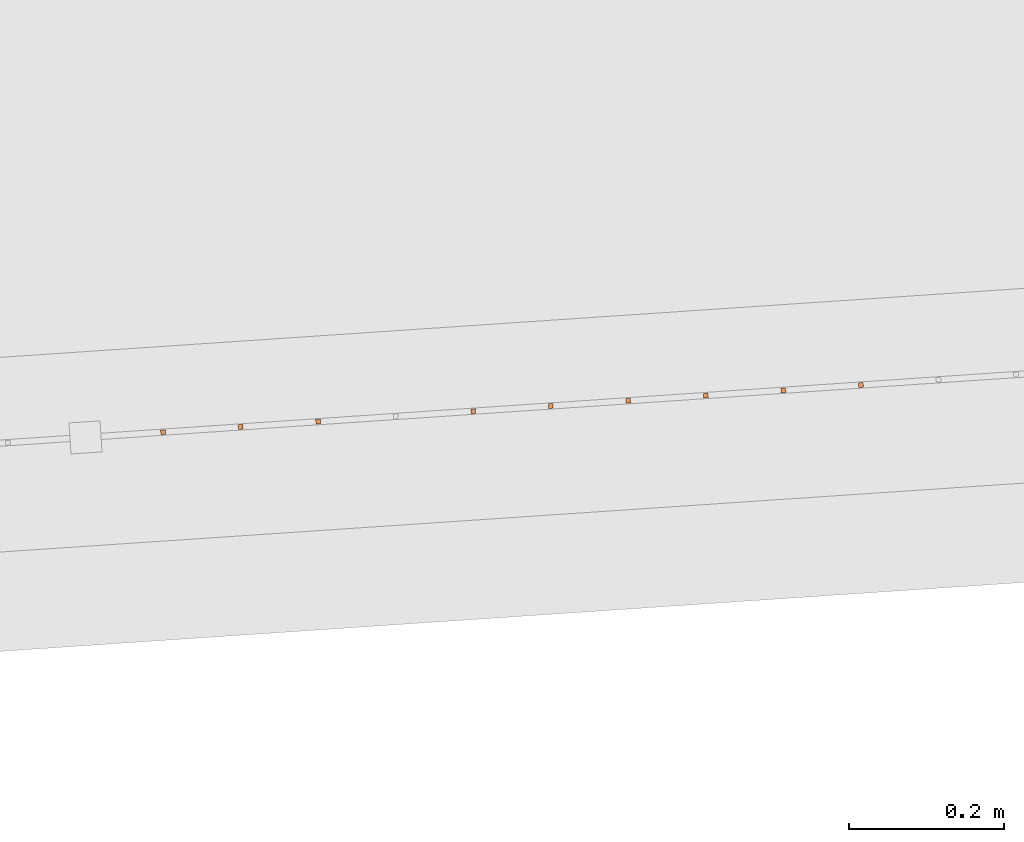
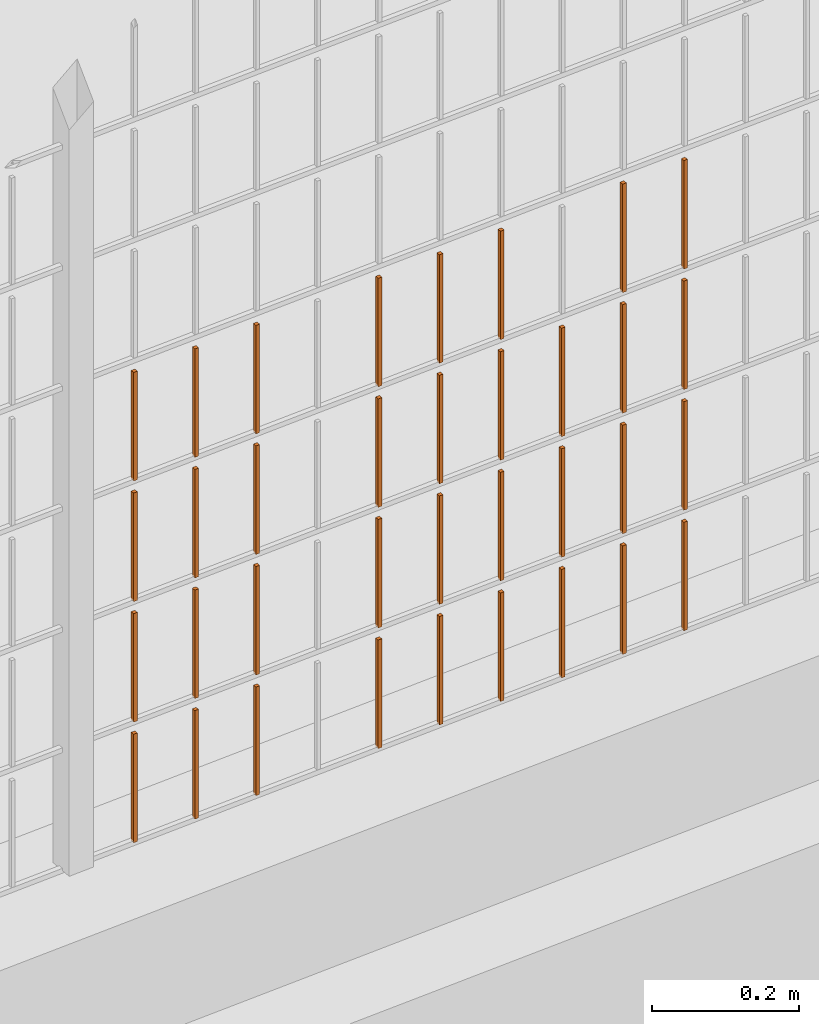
# One storey, part 210 of 1809: 35 proxies, 1 element without a shape of its own.
"""IFC2X3 building model written with IfcOpenShell, lengths in millimetres."""

from ifc_helpers import new_model, entity, si_unit, converted_unit, derived_unit, money_unit, direction, frame, origin_with_axes, place, context, subcontext, project, spatial, faceted_brep, source, transform, mapped, material, type_object, element, aggregate, save


model = new_model("IFC2X3")

# Units and contexts
model_context = context("Model", 3, precision=0.01, world=origin_with_axes(), true_north=direction((0.0, 1.0)))
body_context = subcontext(model_context, "Body", "Model", "MODEL_VIEW")
ifc_project = project(units=[si_unit("LENGTHUNIT", "METRE", prefix="MILLI"), si_unit("AREAUNIT", "SQUARE_METRE"), si_unit("VOLUMEUNIT", "CUBIC_METRE"), converted_unit("PLANEANGLEUNIT", "DEGREE", entity("IfcPlaneAngleMeasure", 0.0174532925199), si_unit("PLANEANGLEUNIT", "RADIAN"), dimensions=[0, 0, 0, 0, 0, 0, 0]), si_unit("SOLIDANGLEUNIT", "STERADIAN"), money_unit("EUR"), converted_unit("TIMEUNIT", "Year", entity("IfcTimeMeasure", 31556926.0), si_unit("TIMEUNIT", "SECOND"), dimensions=[0, 0, 1, 0, 0, 0, 0]), si_unit("MASSUNIT", "GRAM", prefix="KILO"), si_unit("THERMODYNAMICTEMPERATUREUNIT", "DEGREE_CELSIUS"), si_unit("LUMINOUSINTENSITYUNIT", "LUMEN"), si_unit("ENERGYUNIT", "JOULE", prefix="MEGA"), derived_unit("THERMALCONDUCTANCEUNIT", [(si_unit("POWERUNIT", "WATT"), 1), (si_unit("LENGTHUNIT", "METRE"), -1), (si_unit("THERMODYNAMICTEMPERATUREUNIT", "KELVIN"), -1)]), derived_unit("SPECIFICHEATCAPACITYUNIT", [(si_unit("ENERGYUNIT", "JOULE"), 1), (si_unit("MASSUNIT", "GRAM", prefix="KILO"), -1), (si_unit("THERMODYNAMICTEMPERATUREUNIT", "KELVIN"), -1)]), derived_unit("MASSDENSITYUNIT", [(si_unit("MASSUNIT", "GRAM", prefix="KILO"), 1), (si_unit("VOLUMEUNIT", "CUBIC_METRE"), -1)])], contexts=[model_context])

# Site, building, storey
site_placement = place(None, origin_with_axes())
site = spatial("IfcSite", under=ifc_project, at=site_placement, Name="Politse- ja Piirivalveameti ning Päästeameti ühishoone", CompositionType="ELEMENT")
building_placement = place(site_placement, origin_with_axes())
building = spatial("IfcBuilding", under=site, at=building_placement, Name="Politse- ja Piirivalveameti ning Päästeameti ühishoone", CompositionType="ELEMENT")
storey_placement = place(building_placement, origin_with_axes())
storey = spatial("IfcBuildingStorey", under=building, at=storey_placement, Name="Esimene korrus", CompositionType="ELEMENT", Elevation=0.0)

# Proxies
building_element_proxy_type_1 = type_object("IfcBuildingElementProxyType", Name="Railing Type", PredefinedType="NOTDEFINED")
proxy_1_placement = place(storey_placement, frame((89252.001212, -29183.4766571, 203.661247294), z_axis=(0.0, 0.0, 1.0), x_axis=(1.0, 0.0, 0.0)))
proxy_1 = element("IfcBuildingElementProxy", 1, at=proxy_1_placement, inside=storey, type_object=building_element_proxy_type_1, Name="PIIRDEAED")
ifc_material = material(Name="ET-03_Raud")
building_element_proxy_type_2 = type_object("IfcBuildingElementProxyType", Name="IfcBuildingElementProxy", PredefinedType="NOTDEFINED")
shared_shape_1 = source(origin_with_axes(), body_context, "Body", "Brep", [
    faceted_brep([(3.0, 3.0, -0.000752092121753), (-3.0, 3.0, -0.000752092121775), (-3.0, 3.0, 179.99926046), (3.0, 3.0, 179.99926046), (3.0, -3.0, 0.000752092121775), (-3.0, -3.0, 0.000752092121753), (-3.0, -3.0, 180.000764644), (3.0, -3.0, 180.000764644)], [[[0, 1, 2, 3]], [[0, 4, 5, 1]], [[1, 5, 6, 2]], [[3, 2, 6, 7]], [[4, 0, 3, 7]], [[5, 4, 7, 6]]]),
])
proxy_2_placement = place(proxy_1_placement, frame((-61287.0362515, -21437.4827715, 411.834876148), z_axis=(0.0, 0.0, 1.0), x_axis=(1.0, 0.0, 0.0)))
proxy_2 = element("IfcBuildingElementProxy", 2, at=proxy_2_placement, type_object=building_element_proxy_type_2, material=ifc_material, Name="BALUSTER - 001", context=body_context, shape_type="MappedRepresentation", body=[
    mapped(shared_shape_1, transform((0.0, 0.0, 0.0), x_axis=(-0.0673926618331, 0.997726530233, 0.0), y_axis=(-0.997726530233, -0.0673926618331, 0.0), z_axis=(0.0, 0.0, 1.0))),
])
shared_shape_2 = source(origin_with_axes(), body_context, "Body", "Brep", [
    faceted_brep([(3.0, 3.0, -0.000752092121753), (-3.0, 3.0, -0.000752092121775), (-3.0, 3.0, 179.99926046), (3.0, 3.0, 179.99926046), (3.0, -3.0, 0.000752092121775), (-3.0, -3.0, 0.000752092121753), (-3.0, -3.0, 180.000764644), (3.0, -3.0, 180.000764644)], [[[0, 1, 2, 3]], [[0, 4, 5, 1]], [[1, 5, 6, 2]], [[3, 2, 6, 7]], [[4, 0, 3, 7]], [[5, 4, 7, 6]]]),
])
proxy_3_placement = place(proxy_1_placement, frame((-61287.0362515, -21437.4827715, 611.834876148), z_axis=(0.0, 0.0, 1.0), x_axis=(1.0, 0.0, 0.0)))
proxy_3 = element("IfcBuildingElementProxy", 3, at=proxy_3_placement, type_object=building_element_proxy_type_2, material=ifc_material, Name="BALUSTER - 001", context=body_context, shape_type="MappedRepresentation", body=[
    mapped(shared_shape_2, transform((0.0, 0.0, 0.0), x_axis=(-0.0673926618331, 0.997726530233, 0.0), y_axis=(-0.997726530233, -0.0673926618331, 0.0), z_axis=(0.0, 0.0, 1.0))),
])
shared_shape_3 = source(origin_with_axes(), body_context, "Body", "Brep", [
    faceted_brep([(3.0, 3.0, -0.000752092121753), (-3.0, 3.0, -0.000752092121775), (-3.0, 3.0, 179.99926046), (3.0, 3.0, 179.99926046), (3.0, -3.0, 0.000752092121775), (-3.0, -3.0, 0.000752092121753), (-3.0, -3.0, 180.000764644), (3.0, -3.0, 180.000764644)], [[[0, 1, 2, 3]], [[0, 4, 5, 1]], [[1, 5, 6, 2]], [[3, 2, 6, 7]], [[4, 0, 3, 7]], [[5, 4, 7, 6]]]),
])
proxy_4_placement = place(proxy_1_placement, frame((-61287.0362515, -21437.4827715, 211.834876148), z_axis=(0.0, 0.0, 1.0), x_axis=(1.0, 0.0, 0.0)))
proxy_4 = element("IfcBuildingElementProxy", 4, at=proxy_4_placement, type_object=building_element_proxy_type_2, material=ifc_material, Name="BALUSTER - 001", context=body_context, shape_type="MappedRepresentation", body=[
    mapped(shared_shape_3, transform((0.0, 0.0, 0.0), x_axis=(-0.0673926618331, 0.997726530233, 0.0), y_axis=(-0.997726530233, -0.0673926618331, 0.0), z_axis=(0.0, 0.0, 1.0))),
])
shared_shape_4 = source(origin_with_axes(), body_context, "Body", "Brep", [
    faceted_brep([(3.0, 3.0, -0.000752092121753), (-3.0, 3.0, -0.000752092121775), (-3.0, 3.0, 179.99926046), (3.0, 3.0, 179.99926046), (3.0, -3.0, 0.000752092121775), (-3.0, -3.0, 0.000752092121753), (-3.0, -3.0, 180.000764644), (3.0, -3.0, 180.000764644)], [[[0, 1, 2, 3]], [[0, 4, 5, 1]], [[1, 5, 6, 2]], [[3, 2, 6, 7]], [[4, 0, 3, 7]], [[5, 4, 7, 6]]]),
])
proxy_5_placement = place(proxy_1_placement, frame((-61287.0362515, -21437.4827715, 11.8348761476), z_axis=(0.0, 0.0, 1.0), x_axis=(1.0, 0.0, 0.0)))
proxy_5 = element("IfcBuildingElementProxy", 5, at=proxy_5_placement, type_object=building_element_proxy_type_2, material=ifc_material, Name="BALUSTER - 001", context=body_context, shape_type="MappedRepresentation", body=[
    mapped(shared_shape_4, transform((0.0, 0.0, 0.0), x_axis=(-0.0673926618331, 0.997726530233, 0.0), y_axis=(-0.997726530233, -0.0673926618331, 0.0), z_axis=(0.0, 0.0, 1.0))),
])
shared_shape_5 = source(origin_with_axes(), body_context, "Body", "Brep", [
    faceted_brep([(3.0, 3.0, -0.000752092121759), (-3.0, 3.0, -0.000752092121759), (-3.0, 3.0, 179.99926046), (3.0, 3.0, 179.99926046), (3.0, -3.0, 0.000752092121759), (-3.0, -3.0, 0.000752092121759), (-3.0, -3.0, 180.000764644), (3.0, -3.0, 180.000764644)], [[[0, 1, 2, 3]], [[0, 4, 5, 1]], [[1, 5, 6, 2]], [[3, 2, 6, 7]], [[4, 0, 3, 7]], [[5, 4, 7, 6]]]),
])
proxy_6_placement = place(proxy_1_placement, frame((-62085.2174757, -21491.3969009, 11.6343182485), z_axis=(0.0, 0.0, 1.0), x_axis=(1.0, 0.0, 0.0)))
proxy_6 = element("IfcBuildingElementProxy", 6, at=proxy_6_placement, type_object=building_element_proxy_type_2, material=ifc_material, Name="BALUSTER - 001", context=body_context, shape_type="MappedRepresentation", body=[
    mapped(shared_shape_5, transform((0.0, 0.0, 0.0), x_axis=(-0.0673926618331, 0.997726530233, 0.0), y_axis=(-0.997726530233, -0.0673926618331, 0.0), z_axis=(0.0, 0.0, 1.0))),
])
shared_shape_6 = source(origin_with_axes(), body_context, "Body", "Brep", [
    faceted_brep([(3.0, 3.0, -0.000752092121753), (-3.0, 3.0, -0.000752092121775), (-3.0, 3.0, 179.99926046), (3.0, 3.0, 179.99926046), (3.0, -3.0, 0.000752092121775), (-3.0, -3.0, 0.000752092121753), (-3.0, -3.0, 180.000764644), (3.0, -3.0, 180.000764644)], [[[0, 1, 2, 3]], [[0, 4, 5, 1]], [[1, 5, 6, 2]], [[3, 2, 6, 7]], [[4, 0, 3, 7]], [[5, 4, 7, 6]]]),
])
proxy_7_placement = place(proxy_1_placement, frame((-61187.2635985, -21430.7435053, 411.859945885), z_axis=(0.0, 0.0, 1.0), x_axis=(1.0, 0.0, 0.0)))
proxy_7 = element("IfcBuildingElementProxy", 7, at=proxy_7_placement, type_object=building_element_proxy_type_2, material=ifc_material, Name="BALUSTER - 001", context=body_context, shape_type="MappedRepresentation", body=[
    mapped(shared_shape_6, transform((0.0, 0.0, 0.0), x_axis=(-0.0673926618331, 0.997726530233, 0.0), y_axis=(-0.997726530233, -0.0673926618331, 0.0), z_axis=(0.0, 0.0, 1.0))),
])
shared_shape_7 = source(origin_with_axes(), body_context, "Body", "Brep", [
    faceted_brep([(3.0, 3.0, -0.000752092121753), (-3.0, 3.0, -0.000752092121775), (-3.0, 3.0, 179.99926046), (3.0, 3.0, 179.99926046), (3.0, -3.0, 0.000752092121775), (-3.0, -3.0, 0.000752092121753), (-3.0, -3.0, 180.000764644), (3.0, -3.0, 180.000764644)], [[[0, 1, 2, 3]], [[0, 4, 5, 1]], [[1, 5, 6, 2]], [[3, 2, 6, 7]], [[4, 0, 3, 7]], [[5, 4, 7, 6]]]),
])
proxy_8_placement = place(proxy_1_placement, frame((-61885.6721696, -21477.9183686, 211.684457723), z_axis=(0.0, 0.0, 1.0), x_axis=(1.0, 0.0, 0.0)))
proxy_8 = element("IfcBuildingElementProxy", 8, at=proxy_8_placement, type_object=building_element_proxy_type_2, material=ifc_material, Name="BALUSTER - 001", context=body_context, shape_type="MappedRepresentation", body=[
    mapped(shared_shape_7, transform((0.0, 0.0, 0.0), x_axis=(-0.0673926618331, 0.997726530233, 0.0), y_axis=(-0.997726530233, -0.0673926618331, 0.0), z_axis=(0.0, 0.0, 1.0))),
])
proxy_9_placement = place(proxy_1_placement, frame((-61885.6721696, -21477.9183686, 411.684457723), z_axis=(0.0, 0.0, 1.0), x_axis=(1.0, 0.0, 0.0)))
proxy_9 = element("IfcBuildingElementProxy", 9, at=proxy_9_placement, type_object=building_element_proxy_type_2, material=ifc_material, Name="BALUSTER - 001", context=body_context, shape_type="MappedRepresentation", body=[
    mapped(shared_shape_7, transform((0.0, 0.0, 0.0), x_axis=(-0.0673926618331, 0.997726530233, 0.0), y_axis=(-0.997726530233, -0.0673926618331, 0.0), z_axis=(0.0, 0.0, 1.0))),
])
shared_shape_8 = source(origin_with_axes(), body_context, "Body", "Brep", [
    faceted_brep([(3.0, 3.0, -0.000752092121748), (-3.0, 3.0, -0.00075209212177), (-3.0, 3.0, 179.99926046), (3.0, 3.0, 179.99926046), (3.0, -3.0, 0.00075209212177), (-3.0, -3.0, 0.000752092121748), (-3.0, -3.0, 180.000764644), (3.0, -3.0, 180.000764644)], [[[0, 1, 2, 3]], [[0, 4, 5, 1]], [[1, 5, 6, 2]], [[3, 2, 6, 7]], [[4, 0, 3, 7]], [[5, 4, 7, 6]]]),
])
proxy_10_placement = place(proxy_1_placement, frame((-61686.1268636, -21464.4398362, 611.734597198), z_axis=(0.0, 0.0, 1.0), x_axis=(1.0, 0.0, 0.0)))
proxy_10 = element("IfcBuildingElementProxy", 10, at=proxy_10_placement, type_object=building_element_proxy_type_2, material=ifc_material, Name="BALUSTER - 001", context=body_context, shape_type="MappedRepresentation", body=[
    mapped(shared_shape_8, transform((0.0, 0.0, 0.0), x_axis=(-0.0673926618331, 0.997726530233, 0.0), y_axis=(-0.997726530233, -0.0673926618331, 0.0), z_axis=(0.0, 0.0, 1.0))),
])
shared_shape_9 = source(origin_with_axes(), body_context, "Body", "Brep", [
    faceted_brep([(3.0, 3.0, -0.000752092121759), (-3.0, 3.0, -0.000752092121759), (-3.0, 3.0, 179.99926046), (3.0, 3.0, 179.99926046), (3.0, -3.0, 0.000752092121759), (-3.0, -3.0, 0.000752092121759), (-3.0, -3.0, 180.000764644), (3.0, -3.0, 180.000764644)], [[[0, 1, 2, 3]], [[0, 4, 5, 1]], [[1, 5, 6, 2]], [[3, 2, 6, 7]], [[4, 0, 3, 7]], [[5, 4, 7, 6]]]),
])
proxy_11_placement = place(proxy_1_placement, frame((-62085.2174757, -21491.3969009, 211.634318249), z_axis=(0.0, 0.0, 1.0), x_axis=(1.0, 0.0, 0.0)))
proxy_11 = element("IfcBuildingElementProxy", 11, at=proxy_11_placement, type_object=building_element_proxy_type_2, material=ifc_material, Name="BALUSTER - 001", context=body_context, shape_type="MappedRepresentation", body=[
    mapped(shared_shape_9, transform((0.0, 0.0, 0.0), x_axis=(-0.0673926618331, 0.997726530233, 0.0), y_axis=(-0.997726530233, -0.0673926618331, 0.0), z_axis=(0.0, 0.0, 1.0))),
])
proxy_12_placement = place(proxy_1_placement, frame((-62085.2174757, -21491.3969009, 411.634318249), z_axis=(0.0, 0.0, 1.0), x_axis=(1.0, 0.0, 0.0)))
proxy_12 = element("IfcBuildingElementProxy", 12, at=proxy_12_placement, type_object=building_element_proxy_type_2, material=ifc_material, Name="BALUSTER - 001", context=body_context, shape_type="MappedRepresentation", body=[
    mapped(shared_shape_9, transform((0.0, 0.0, 0.0), x_axis=(-0.0673926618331, 0.997726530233, 0.0), y_axis=(-0.997726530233, -0.0673926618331, 0.0), z_axis=(0.0, 0.0, 1.0))),
])
shared_shape_10 = source(origin_with_axes(), body_context, "Body", "Brep", [
    faceted_brep([(3.0, 3.0, -0.000752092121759), (-3.0, 3.0, -0.000752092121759), (-3.0, 3.0, 179.99926046), (3.0, 3.0, 179.99926046), (3.0, -3.0, 0.000752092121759), (-3.0, -3.0, 0.000752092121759), (-3.0, -3.0, 180.000764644), (3.0, -3.0, 180.000764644)], [[[0, 1, 2, 3]], [[0, 4, 5, 1]], [[1, 5, 6, 2]], [[3, 2, 6, 7]], [[4, 0, 3, 7]], [[5, 4, 7, 6]]]),
])
proxy_13_placement = place(proxy_1_placement, frame((-61586.3542106, -21457.70057, 411.759666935), z_axis=(0.0, 0.0, 1.0), x_axis=(1.0, 0.0, 0.0)))
proxy_13 = element("IfcBuildingElementProxy", 13, at=proxy_13_placement, type_object=building_element_proxy_type_2, material=ifc_material, Name="BALUSTER - 001", context=body_context, shape_type="MappedRepresentation", body=[
    mapped(shared_shape_10, transform((0.0, 0.0, 0.0), x_axis=(-0.0673926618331, 0.997726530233, 0.0), y_axis=(-0.997726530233, -0.0673926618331, 0.0), z_axis=(0.0, 0.0, 1.0))),
])
proxy_14_placement = place(proxy_1_placement, frame((-61586.3542106, -21457.70057, 611.759666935), z_axis=(0.0, 0.0, 1.0), x_axis=(1.0, 0.0, 0.0)))
proxy_14 = element("IfcBuildingElementProxy", 14, at=proxy_14_placement, type_object=building_element_proxy_type_2, material=ifc_material, Name="BALUSTER - 001", context=body_context, shape_type="MappedRepresentation", body=[
    mapped(shared_shape_10, transform((0.0, 0.0, 0.0), x_axis=(-0.0673926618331, 0.997726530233, 0.0), y_axis=(-0.997726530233, -0.0673926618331, 0.0), z_axis=(0.0, 0.0, 1.0))),
])
shared_shape_11 = source(origin_with_axes(), body_context, "Body", "Brep", [
    faceted_brep([(3.0, 3.0, -0.000752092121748), (-3.0, 3.0, -0.00075209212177), (-3.0, 3.0, 179.99926046), (3.0, 3.0, 179.99926046), (3.0, -3.0, 0.00075209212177), (-3.0, -3.0, 0.000752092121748), (-3.0, -3.0, 180.000764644), (3.0, -3.0, 180.000764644)], [[[0, 1, 2, 3]], [[0, 4, 5, 1]], [[1, 5, 6, 2]], [[3, 2, 6, 7]], [[4, 0, 3, 7]], [[5, 4, 7, 6]]]),
])
proxy_15_placement = place(proxy_1_placement, frame((-61686.1268636, -21464.4398362, 411.734597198), z_axis=(0.0, 0.0, 1.0), x_axis=(1.0, 0.0, 0.0)))
proxy_15 = element("IfcBuildingElementProxy", 15, at=proxy_15_placement, type_object=building_element_proxy_type_2, material=ifc_material, Name="BALUSTER - 001", context=body_context, shape_type="MappedRepresentation", body=[
    mapped(shared_shape_11, transform((0.0, 0.0, 0.0), x_axis=(-0.0673926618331, 0.997726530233, 0.0), y_axis=(-0.997726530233, -0.0673926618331, 0.0), z_axis=(0.0, 0.0, 1.0))),
])
shared_shape_12 = source(origin_with_axes(), body_context, "Body", "Brep", [
    faceted_brep([(3.0, 3.0, -0.000752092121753), (-3.0, 3.0, -0.000752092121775), (-3.0, 3.0, 179.99926046), (3.0, 3.0, 179.99926046), (3.0, -3.0, 0.000752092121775), (-3.0, -3.0, 0.000752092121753), (-3.0, -3.0, 180.000764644), (3.0, -3.0, 180.000764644)], [[[0, 1, 2, 3]], [[0, 4, 5, 1]], [[1, 5, 6, 2]], [[3, 2, 6, 7]], [[4, 0, 3, 7]], [[5, 4, 7, 6]]]),
])
proxy_16_placement = place(proxy_1_placement, frame((-61187.2635985, -21430.7435053, 611.859945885), z_axis=(0.0, 0.0, 1.0), x_axis=(1.0, 0.0, 0.0)))
proxy_16 = element("IfcBuildingElementProxy", 16, at=proxy_16_placement, type_object=building_element_proxy_type_2, material=ifc_material, Name="BALUSTER - 001", context=body_context, shape_type="MappedRepresentation", body=[
    mapped(shared_shape_12, transform((0.0, 0.0, 0.0), x_axis=(-0.0673926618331, 0.997726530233, 0.0), y_axis=(-0.997726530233, -0.0673926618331, 0.0), z_axis=(0.0, 0.0, 1.0))),
])
shared_shape_13 = source(origin_with_axes(), body_context, "Body", "Brep", [
    faceted_brep([(3.0, 3.0, -0.000752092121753), (-3.0, 3.0, -0.000752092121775), (-3.0, 3.0, 179.99926046), (3.0, 3.0, 179.99926046), (3.0, -3.0, 0.000752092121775), (-3.0, -3.0, 0.000752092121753), (-3.0, -3.0, 180.000764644), (3.0, -3.0, 180.000764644)], [[[0, 1, 2, 3]], [[0, 4, 5, 1]], [[1, 5, 6, 2]], [[3, 2, 6, 7]], [[4, 0, 3, 7]], [[5, 4, 7, 6]]]),
])
proxy_17_placement = place(proxy_1_placement, frame((-61885.6721696, -21477.9183686, 611.684457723), z_axis=(0.0, 0.0, 1.0), x_axis=(1.0, 0.0, 0.0)))
proxy_17 = element("IfcBuildingElementProxy", 17, at=proxy_17_placement, type_object=building_element_proxy_type_2, material=ifc_material, Name="BALUSTER - 001", context=body_context, shape_type="MappedRepresentation", body=[
    mapped(shared_shape_13, transform((0.0, 0.0, 0.0), x_axis=(-0.0673926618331, 0.997726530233, 0.0), y_axis=(-0.997726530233, -0.0673926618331, 0.0), z_axis=(0.0, 0.0, 1.0))),
])
shared_shape_14 = source(origin_with_axes(), body_context, "Body", "Brep", [
    faceted_brep([(3.0, 3.0, -0.000752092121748), (-3.0, 3.0, -0.00075209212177), (-3.0, 3.0, 179.99926046), (3.0, 3.0, 179.99926046), (3.0, -3.0, 0.00075209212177), (-3.0, -3.0, 0.000752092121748), (-3.0, -3.0, 180.000764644), (3.0, -3.0, 180.000764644)], [[[0, 1, 2, 3]], [[0, 4, 5, 1]], [[1, 5, 6, 2]], [[3, 2, 6, 7]], [[4, 0, 3, 7]], [[5, 4, 7, 6]]]),
])
proxy_18_placement = place(proxy_1_placement, frame((-61686.1268636, -21464.4398362, 11.7345971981), z_axis=(0.0, 0.0, 1.0), x_axis=(1.0, 0.0, 0.0)))
proxy_18 = element("IfcBuildingElementProxy", 18, at=proxy_18_placement, type_object=building_element_proxy_type_2, material=ifc_material, Name="BALUSTER - 001", context=body_context, shape_type="MappedRepresentation", body=[
    mapped(shared_shape_14, transform((0.0, 0.0, 0.0), x_axis=(-0.0673926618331, 0.997726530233, 0.0), y_axis=(-0.997726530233, -0.0673926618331, 0.0), z_axis=(0.0, 0.0, 1.0))),
])
shared_shape_15 = source(origin_with_axes(), body_context, "Body", "Brep", [
    faceted_brep([(3.0, 3.0, -0.000752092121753), (-3.0, 3.0, -0.000752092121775), (-3.0, 3.0, 179.99926046), (3.0, 3.0, 179.99926046), (3.0, -3.0, 0.000752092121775), (-3.0, -3.0, 0.000752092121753), (-3.0, -3.0, 180.000764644), (3.0, -3.0, 180.000764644)], [[[0, 1, 2, 3]], [[0, 4, 5, 1]], [[1, 5, 6, 2]], [[3, 2, 6, 7]], [[4, 0, 3, 7]], [[5, 4, 7, 6]]]),
])
proxy_19_placement = place(proxy_1_placement, frame((-61187.2635985, -21430.7435053, 11.859945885), z_axis=(0.0, 0.0, 1.0), x_axis=(1.0, 0.0, 0.0)))
proxy_19 = element("IfcBuildingElementProxy", 19, at=proxy_19_placement, type_object=building_element_proxy_type_2, material=ifc_material, Name="BALUSTER - 001", context=body_context, shape_type="MappedRepresentation", body=[
    mapped(shared_shape_15, transform((0.0, 0.0, 0.0), x_axis=(-0.0673926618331, 0.997726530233, 0.0), y_axis=(-0.997726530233, -0.0673926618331, 0.0), z_axis=(0.0, 0.0, 1.0))),
])
proxy_20_placement = place(proxy_1_placement, frame((-61187.2635985, -21430.7435053, 211.859945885), z_axis=(0.0, 0.0, 1.0), x_axis=(1.0, 0.0, 0.0)))
proxy_20 = element("IfcBuildingElementProxy", 20, at=proxy_20_placement, type_object=building_element_proxy_type_2, material=ifc_material, Name="BALUSTER - 001", context=body_context, shape_type="MappedRepresentation", body=[
    mapped(shared_shape_15, transform((0.0, 0.0, 0.0), x_axis=(-0.0673926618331, 0.997726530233, 0.0), y_axis=(-0.997726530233, -0.0673926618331, 0.0), z_axis=(0.0, 0.0, 1.0))),
])
shared_shape_16 = source(origin_with_axes(), body_context, "Body", "Brep", [
    faceted_brep([(3.0, 3.0, -0.000752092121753), (-3.0, 3.0, -0.000752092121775), (-3.0, 3.0, 179.99926046), (3.0, 3.0, 179.99926046), (3.0, -3.0, 0.000752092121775), (-3.0, -3.0, 0.000752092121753), (-3.0, -3.0, 180.000764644), (3.0, -3.0, 180.000764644)], [[[0, 1, 2, 3]], [[0, 4, 5, 1]], [[1, 5, 6, 2]], [[3, 2, 6, 7]], [[4, 0, 3, 7]], [[5, 4, 7, 6]]]),
])
proxy_21_placement = place(proxy_1_placement, frame((-61386.8089045, -21444.2220376, 11.8098064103), z_axis=(0.0, 0.0, 1.0), x_axis=(1.0, 0.0, 0.0)))
proxy_21 = element("IfcBuildingElementProxy", 21, at=proxy_21_placement, type_object=building_element_proxy_type_2, material=ifc_material, Name="BALUSTER - 001", context=body_context, shape_type="MappedRepresentation", body=[
    mapped(shared_shape_16, transform((0.0, 0.0, 0.0), x_axis=(-0.0673926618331, 0.997726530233, 0.0), y_axis=(-0.997726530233, -0.0673926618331, 0.0), z_axis=(0.0, 0.0, 1.0))),
])
shared_shape_17 = source(origin_with_axes(), body_context, "Body", "Brep", [
    faceted_brep([(3.0, 3.0, -0.000752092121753), (-3.0, 3.0, -0.000752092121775), (-3.0, 3.0, 179.99926046), (3.0, 3.0, 179.99926046), (3.0, -3.0, 0.000752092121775), (-3.0, -3.0, 0.000752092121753), (-3.0, -3.0, 180.000764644), (3.0, -3.0, 180.000764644)], [[[0, 1, 2, 3]], [[0, 4, 5, 1]], [[1, 5, 6, 2]], [[3, 2, 6, 7]], [[4, 0, 3, 7]], [[5, 4, 7, 6]]]),
])
proxy_22_placement = place(proxy_1_placement, frame((-61486.5815575, -21450.9613038, 11.7847366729), z_axis=(0.0, 0.0, 1.0), x_axis=(1.0, 0.0, 0.0)))
proxy_22 = element("IfcBuildingElementProxy", 22, at=proxy_22_placement, type_object=building_element_proxy_type_2, material=ifc_material, Name="BALUSTER - 001", context=body_context, shape_type="MappedRepresentation", body=[
    mapped(shared_shape_17, transform((0.0, 0.0, 0.0), x_axis=(-0.0673926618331, 0.997726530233, 0.0), y_axis=(-0.997726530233, -0.0673926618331, 0.0), z_axis=(0.0, 0.0, 1.0))),
])
shared_shape_18 = source(origin_with_axes(), body_context, "Body", "Brep", [
    faceted_brep([(3.0, 3.0, -0.000752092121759), (-3.0, 3.0, -0.000752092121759), (-3.0, 3.0, 179.99926046), (3.0, 3.0, 179.99926046), (3.0, -3.0, 0.000752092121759), (-3.0, -3.0, 0.000752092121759), (-3.0, -3.0, 180.000764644), (3.0, -3.0, 180.000764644)], [[[0, 1, 2, 3]], [[0, 4, 5, 1]], [[1, 5, 6, 2]], [[3, 2, 6, 7]], [[4, 0, 3, 7]], [[5, 4, 7, 6]]]),
])
proxy_23_placement = place(proxy_1_placement, frame((-61586.3542106, -21457.70057, 11.7596669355), z_axis=(0.0, 0.0, 1.0), x_axis=(1.0, 0.0, 0.0)))
proxy_23 = element("IfcBuildingElementProxy", 23, at=proxy_23_placement, type_object=building_element_proxy_type_2, material=ifc_material, Name="BALUSTER - 001", context=body_context, shape_type="MappedRepresentation", body=[
    mapped(shared_shape_18, transform((0.0, 0.0, 0.0), x_axis=(-0.0673926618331, 0.997726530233, 0.0), y_axis=(-0.997726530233, -0.0673926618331, 0.0), z_axis=(0.0, 0.0, 1.0))),
])
shared_shape_19 = source(origin_with_axes(), body_context, "Body", "Brep", [
    faceted_brep([(3.0, 3.0, -0.000752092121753), (-3.0, 3.0, -0.000752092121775), (-3.0, 3.0, 179.99926046), (3.0, 3.0, 179.99926046), (3.0, -3.0, 0.000752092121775), (-3.0, -3.0, 0.000752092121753), (-3.0, -3.0, 180.000764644), (3.0, -3.0, 180.000764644)], [[[0, 1, 2, 3]], [[0, 4, 5, 1]], [[1, 5, 6, 2]], [[3, 2, 6, 7]], [[4, 0, 3, 7]], [[5, 4, 7, 6]]]),
])
proxy_24_placement = place(proxy_1_placement, frame((-61885.6721696, -21477.9183686, 11.6844577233), z_axis=(0.0, 0.0, 1.0), x_axis=(1.0, 0.0, 0.0)))
proxy_24 = element("IfcBuildingElementProxy", 24, at=proxy_24_placement, type_object=building_element_proxy_type_2, material=ifc_material, Name="BALUSTER - 001", context=body_context, shape_type="MappedRepresentation", body=[
    mapped(shared_shape_19, transform((0.0, 0.0, 0.0), x_axis=(-0.0673926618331, 0.997726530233, 0.0), y_axis=(-0.997726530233, -0.0673926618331, 0.0), z_axis=(0.0, 0.0, 1.0))),
])
shared_shape_20 = source(origin_with_axes(), body_context, "Body", "Brep", [
    faceted_brep([(3.0, 3.0, -0.000752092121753), (-3.0, 3.0, -0.000752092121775), (-3.0, 3.0, 179.99926046), (3.0, 3.0, 179.99926046), (3.0, -3.0, 0.000752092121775), (-3.0, -3.0, 0.000752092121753), (-3.0, -3.0, 180.000764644), (3.0, -3.0, 180.000764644)], [[[0, 1, 2, 3]], [[0, 4, 5, 1]], [[1, 5, 6, 2]], [[3, 2, 6, 7]], [[4, 0, 3, 7]], [[5, 4, 7, 6]]]),
])
proxy_25_placement = place(proxy_1_placement, frame((-61985.4448227, -21484.6576347, 11.6593879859), z_axis=(0.0, 0.0, 1.0), x_axis=(1.0, 0.0, 0.0)))
proxy_25 = element("IfcBuildingElementProxy", 25, at=proxy_25_placement, type_object=building_element_proxy_type_2, material=ifc_material, Name="BALUSTER - 001", context=body_context, shape_type="MappedRepresentation", body=[
    mapped(shared_shape_20, transform((0.0, 0.0, 0.0), x_axis=(-0.0673926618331, 0.997726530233, 0.0), y_axis=(-0.997726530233, -0.0673926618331, 0.0), z_axis=(0.0, 0.0, 1.0))),
])
shared_shape_21 = source(origin_with_axes(), body_context, "Body", "Brep", [
    faceted_brep([(3.0, 3.0, -0.000752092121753), (-3.0, 3.0, -0.000752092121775), (-3.0, 3.0, 179.99926046), (3.0, 3.0, 179.99926046), (3.0, -3.0, 0.000752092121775), (-3.0, -3.0, 0.000752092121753), (-3.0, -3.0, 180.000764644), (3.0, -3.0, 180.000764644)], [[[0, 1, 2, 3]], [[0, 4, 5, 1]], [[1, 5, 6, 2]], [[3, 2, 6, 7]], [[4, 0, 3, 7]], [[5, 4, 7, 6]]]),
])
proxy_26_placement = place(proxy_1_placement, frame((-61386.8089045, -21444.2220376, 211.80980641), z_axis=(0.0, 0.0, 1.0), x_axis=(1.0, 0.0, 0.0)))
proxy_26 = element("IfcBuildingElementProxy", 26, at=proxy_26_placement, type_object=building_element_proxy_type_2, material=ifc_material, Name="BALUSTER - 001", context=body_context, shape_type="MappedRepresentation", body=[
    mapped(shared_shape_21, transform((0.0, 0.0, 0.0), x_axis=(-0.0673926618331, 0.997726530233, 0.0), y_axis=(-0.997726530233, -0.0673926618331, 0.0), z_axis=(0.0, 0.0, 1.0))),
])
proxy_27_placement = place(proxy_1_placement, frame((-61386.8089045, -21444.2220376, 411.80980641), z_axis=(0.0, 0.0, 1.0), x_axis=(1.0, 0.0, 0.0)))
proxy_27 = element("IfcBuildingElementProxy", 27, at=proxy_27_placement, type_object=building_element_proxy_type_2, material=ifc_material, Name="BALUSTER - 001", context=body_context, shape_type="MappedRepresentation", body=[
    mapped(shared_shape_21, transform((0.0, 0.0, 0.0), x_axis=(-0.0673926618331, 0.997726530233, 0.0), y_axis=(-0.997726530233, -0.0673926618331, 0.0), z_axis=(0.0, 0.0, 1.0))),
])
shared_shape_22 = source(origin_with_axes(), body_context, "Body", "Brep", [
    faceted_brep([(3.0, 3.0, -0.000752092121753), (-3.0, 3.0, -0.000752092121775), (-3.0, 3.0, 179.99926046), (3.0, 3.0, 179.99926046), (3.0, -3.0, 0.000752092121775), (-3.0, -3.0, 0.000752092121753), (-3.0, -3.0, 180.000764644), (3.0, -3.0, 180.000764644)], [[[0, 1, 2, 3]], [[0, 4, 5, 1]], [[1, 5, 6, 2]], [[3, 2, 6, 7]], [[4, 0, 3, 7]], [[5, 4, 7, 6]]]),
])
proxy_28_placement = place(proxy_1_placement, frame((-61486.5815575, -21450.9613038, 211.784736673), z_axis=(0.0, 0.0, 1.0), x_axis=(1.0, 0.0, 0.0)))
proxy_28 = element("IfcBuildingElementProxy", 28, at=proxy_28_placement, type_object=building_element_proxy_type_2, material=ifc_material, Name="BALUSTER - 001", context=body_context, shape_type="MappedRepresentation", body=[
    mapped(shared_shape_22, transform((0.0, 0.0, 0.0), x_axis=(-0.0673926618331, 0.997726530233, 0.0), y_axis=(-0.997726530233, -0.0673926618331, 0.0), z_axis=(0.0, 0.0, 1.0))),
])
proxy_29_placement = place(proxy_1_placement, frame((-61985.4448227, -21484.6576347, 411.659387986), z_axis=(0.0, 0.0, 1.0), x_axis=(1.0, 0.0, 0.0)))
proxy_29 = element("IfcBuildingElementProxy", 29, at=proxy_29_placement, type_object=building_element_proxy_type_2, material=ifc_material, Name="BALUSTER - 001", context=body_context, shape_type="MappedRepresentation", body=[
    mapped(shared_shape_22, transform((0.0, 0.0, 0.0), x_axis=(-0.0673926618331, 0.997726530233, 0.0), y_axis=(-0.997726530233, -0.0673926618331, 0.0), z_axis=(0.0, 0.0, 1.0))),
])
shared_shape_23 = source(origin_with_axes(), body_context, "Body", "Brep", [
    faceted_brep([(3.0, 3.0, -0.000752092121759), (-3.0, 3.0, -0.000752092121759), (-3.0, 3.0, 179.99926046), (3.0, 3.0, 179.99926046), (3.0, -3.0, 0.000752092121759), (-3.0, -3.0, 0.000752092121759), (-3.0, -3.0, 180.000764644), (3.0, -3.0, 180.000764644)], [[[0, 1, 2, 3]], [[0, 4, 5, 1]], [[1, 5, 6, 2]], [[3, 2, 6, 7]], [[4, 0, 3, 7]], [[5, 4, 7, 6]]]),
])
proxy_30_placement = place(proxy_1_placement, frame((-61586.3542106, -21457.70057, 211.759666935), z_axis=(0.0, 0.0, 1.0), x_axis=(1.0, 0.0, 0.0)))
proxy_30 = element("IfcBuildingElementProxy", 30, at=proxy_30_placement, type_object=building_element_proxy_type_2, material=ifc_material, Name="BALUSTER - 001", context=body_context, shape_type="MappedRepresentation", body=[
    mapped(shared_shape_23, transform((0.0, 0.0, 0.0), x_axis=(-0.0673926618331, 0.997726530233, 0.0), y_axis=(-0.997726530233, -0.0673926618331, 0.0), z_axis=(0.0, 0.0, 1.0))),
])
shared_shape_24 = source(origin_with_axes(), body_context, "Body", "Brep", [
    faceted_brep([(3.0, 3.0, -0.000752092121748), (-3.0, 3.0, -0.00075209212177), (-3.0, 3.0, 179.99926046), (3.0, 3.0, 179.99926046), (3.0, -3.0, 0.00075209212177), (-3.0, -3.0, 0.000752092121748), (-3.0, -3.0, 180.000764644), (3.0, -3.0, 180.000764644)], [[[0, 1, 2, 3]], [[0, 4, 5, 1]], [[1, 5, 6, 2]], [[3, 2, 6, 7]], [[4, 0, 3, 7]], [[5, 4, 7, 6]]]),
])
proxy_31_placement = place(proxy_1_placement, frame((-61686.1268636, -21464.4398362, 211.734597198), z_axis=(0.0, 0.0, 1.0), x_axis=(1.0, 0.0, 0.0)))
proxy_31 = element("IfcBuildingElementProxy", 31, at=proxy_31_placement, type_object=building_element_proxy_type_2, material=ifc_material, Name="BALUSTER - 001", context=body_context, shape_type="MappedRepresentation", body=[
    mapped(shared_shape_24, transform((0.0, 0.0, 0.0), x_axis=(-0.0673926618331, 0.997726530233, 0.0), y_axis=(-0.997726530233, -0.0673926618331, 0.0), z_axis=(0.0, 0.0, 1.0))),
])
shared_shape_25 = source(origin_with_axes(), body_context, "Body", "Brep", [
    faceted_brep([(3.0, 3.0, -0.000752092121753), (-3.0, 3.0, -0.000752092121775), (-3.0, 3.0, 179.99926046), (3.0, 3.0, 179.99926046), (3.0, -3.0, 0.000752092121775), (-3.0, -3.0, 0.000752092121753), (-3.0, -3.0, 180.000764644), (3.0, -3.0, 180.000764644)], [[[0, 1, 2, 3]], [[0, 4, 5, 1]], [[1, 5, 6, 2]], [[3, 2, 6, 7]], [[4, 0, 3, 7]], [[5, 4, 7, 6]]]),
])
proxy_32_placement = place(proxy_1_placement, frame((-61985.4448227, -21484.6576347, 211.659387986), z_axis=(0.0, 0.0, 1.0), x_axis=(1.0, 0.0, 0.0)))
proxy_32 = element("IfcBuildingElementProxy", 32, at=proxy_32_placement, type_object=building_element_proxy_type_2, material=ifc_material, Name="BALUSTER - 001", context=body_context, shape_type="MappedRepresentation", body=[
    mapped(shared_shape_25, transform((0.0, 0.0, 0.0), x_axis=(-0.0673926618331, 0.997726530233, 0.0), y_axis=(-0.997726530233, -0.0673926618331, 0.0), z_axis=(0.0, 0.0, 1.0))),
])
proxy_33_placement = place(proxy_1_placement, frame((-61486.5815575, -21450.9613038, 411.784736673), z_axis=(0.0, 0.0, 1.0), x_axis=(1.0, 0.0, 0.0)))
proxy_33 = element("IfcBuildingElementProxy", 33, at=proxy_33_placement, type_object=building_element_proxy_type_2, material=ifc_material, Name="BALUSTER - 001", context=body_context, shape_type="MappedRepresentation", body=[
    mapped(shared_shape_25, transform((0.0, 0.0, 0.0), x_axis=(-0.0673926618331, 0.997726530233, 0.0), y_axis=(-0.997726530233, -0.0673926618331, 0.0), z_axis=(0.0, 0.0, 1.0))),
])
proxy_34_placement = place(proxy_1_placement, frame((-61486.5815575, -21450.9613038, 611.784736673), z_axis=(0.0, 0.0, 1.0), x_axis=(1.0, 0.0, 0.0)))
proxy_34 = element("IfcBuildingElementProxy", 34, at=proxy_34_placement, type_object=building_element_proxy_type_2, material=ifc_material, Name="BALUSTER - 001", context=body_context, shape_type="MappedRepresentation", body=[
    mapped(shared_shape_25, transform((0.0, 0.0, 0.0), x_axis=(-0.0673926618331, 0.997726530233, 0.0), y_axis=(-0.997726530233, -0.0673926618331, 0.0), z_axis=(0.0, 0.0, 1.0))),
])
proxy_35_placement = place(proxy_1_placement, frame((-61985.4448227, -21484.6576347, 611.659387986), z_axis=(0.0, 0.0, 1.0), x_axis=(1.0, 0.0, 0.0)))
proxy_35 = element("IfcBuildingElementProxy", 35, at=proxy_35_placement, type_object=building_element_proxy_type_2, material=ifc_material, Name="BALUSTER - 001", context=body_context, shape_type="MappedRepresentation", body=[
    mapped(shared_shape_25, transform((0.0, 0.0, 0.0), x_axis=(-0.0673926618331, 0.997726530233, 0.0), y_axis=(-0.997726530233, -0.0673926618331, 0.0), z_axis=(0.0, 0.0, 1.0))),
])
shared_shape_26 = source(origin_with_axes(), body_context, "Body", "Brep", [
    faceted_brep([(3.0, 3.0, -0.000752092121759), (-3.0, 3.0, -0.000752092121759), (-3.0, 3.0, 179.99926046), (3.0, 3.0, 179.99926046), (3.0, -3.0, 0.000752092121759), (-3.0, -3.0, 0.000752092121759), (-3.0, -3.0, 180.000764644), (3.0, -3.0, 180.000764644)], [[[0, 1, 2, 3]], [[0, 4, 5, 1]], [[1, 5, 6, 2]], [[3, 2, 6, 7]], [[4, 0, 3, 7]], [[5, 4, 7, 6]]]),
])
proxy_36_placement = place(proxy_1_placement, frame((-62085.2174757, -21491.3969009, 611.634318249), z_axis=(0.0, 0.0, 1.0), x_axis=(1.0, 0.0, 0.0)))
proxy_36 = element("IfcBuildingElementProxy", 36, at=proxy_36_placement, type_object=building_element_proxy_type_2, material=ifc_material, Name="BALUSTER - 001", context=body_context, shape_type="MappedRepresentation", body=[
    mapped(shared_shape_26, transform((0.0, 0.0, 0.0), x_axis=(-0.0673926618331, 0.997726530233, 0.0), y_axis=(-0.997726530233, -0.0673926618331, 0.0), z_axis=(0.0, 0.0, 1.0))),
])
aggregate(proxy_1, [proxy_19, proxy_5, proxy_21, proxy_22, proxy_23, proxy_18, proxy_24, proxy_25, proxy_6, proxy_20, proxy_4, proxy_26, proxy_28, proxy_30, proxy_31, proxy_8, proxy_32, proxy_11, proxy_7, proxy_2, proxy_27, proxy_33, proxy_13, proxy_15, proxy_9, proxy_29, proxy_12, proxy_16, proxy_3, proxy_34, proxy_14, proxy_10, proxy_17, proxy_35, proxy_36])

save(model, "model.ifc")
